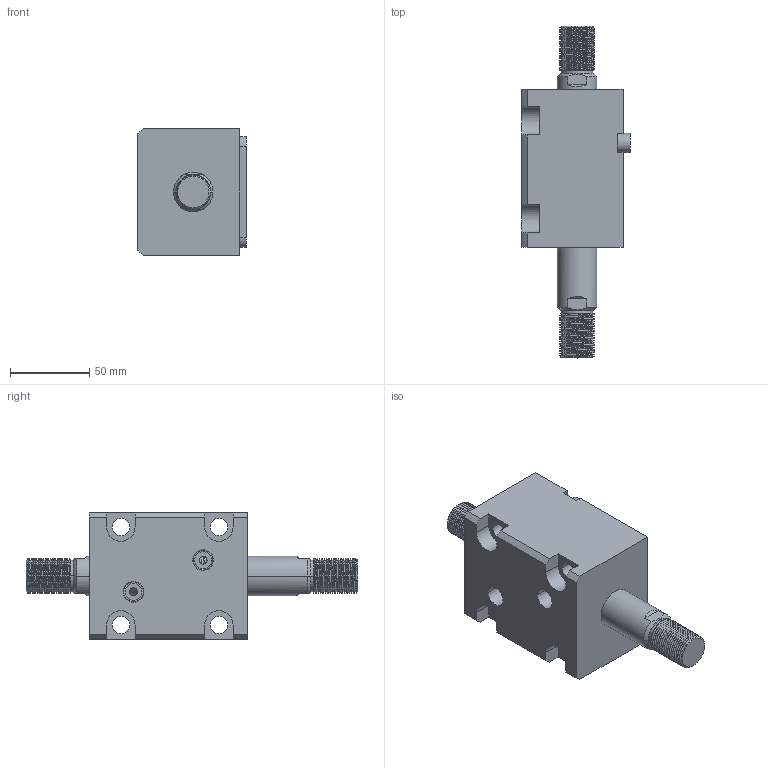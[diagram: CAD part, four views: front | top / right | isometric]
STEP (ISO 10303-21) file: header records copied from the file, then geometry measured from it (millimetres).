
FILE_DESCRIPTION (( 'STEP AP214' ), '1' );
FILE_NAME ('chtb-lw40x30w_asm.STEP', '2018-06-04T06:59:08', ( 'Windows' ), ( 'Microsoft' ), 'SwSTEP 2.0', 'SolidWorks 2015', '' );
FILE_SCHEMA (( 'AUTOMOTIVE_DESIGN' ));
Length unit declared in the file: millimetre
Products named in the file (5): CHTB-SD40QG; CHTB-LW40X30NBT; CHTB-LA40PJ; chtb-lw40x30w_asm; CHTB-SW40X30NHSG
Assembly tree (4 placements, depth 2):
  chtb-lw40x30w_asm
    CHTB-LA40PJ
    CHTB-LW40X30NBT
    CHTB-SD40QG
    CHTB-SW40X30NHSG
Bounding box: 68.5 x 210 x 80 mm (x, y, z)
Volume: 498555 mm3; surface area: 94192.6 mm2
Topology: 4 solids, 4 shells, 258 faces, 711 edges, 473 vertices
Faces by surface type: cylinder 152, plane 59, bspline 18, cone 17, torus 12
Entity records: 17539 total; most frequent: CARTESIAN_POINT 11292, ORIENTED_EDGE 1410, DIRECTION 1124, EDGE_CURVE 705, VERTEX_POINT 473, AXIS2_PLACEMENT_3D 433, EDGE_LOOP 292, LINE 258
